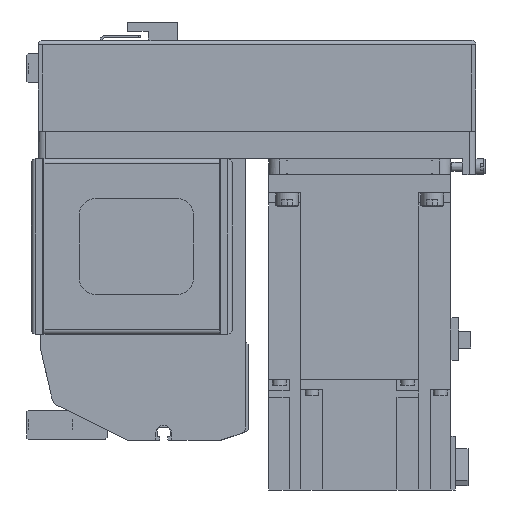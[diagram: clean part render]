
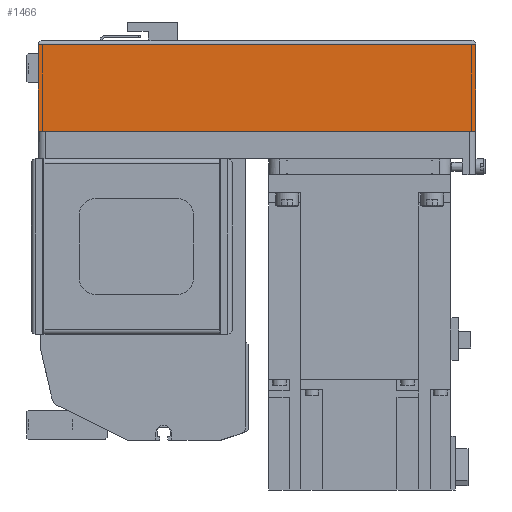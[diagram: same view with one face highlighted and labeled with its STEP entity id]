
A CAD part, left-side view. The second image highlights one B-rep face of the part: STEP entity #1466.
In plain terms, the highlighted planar face has unit normal (-1, 0, 0) as drawn and (0, -1, 0) by its records, which use the part's own axes.
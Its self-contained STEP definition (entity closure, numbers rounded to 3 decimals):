
#1466 = ADVANCED_FACE( '', ( #3770 ), #3771, .T. );
#3770 = FACE_OUTER_BOUND( '', #7140, .T. );
#3771 = PLANE( '', #7141 );
#7140 = EDGE_LOOP( '', ( #11321, #11322, #11323, #11324 ) );
#7141 = AXIS2_PLACEMENT_3D( '', #11325, #11326, #11327 );
#11321 = ORIENTED_EDGE( '', *, *, #19955, .F. );
#11322 = ORIENTED_EDGE( '', *, *, #19353, .F. );
#11323 = ORIENTED_EDGE( '', *, *, #19956, .T. );
#11324 = ORIENTED_EDGE( '', *, *, #19957, .T. );
#11325 = CARTESIAN_POINT( '', ( -192., -40., -12.1 ) );
#11326 = DIRECTION( '', ( 0., -1., 0. ) );
#11327 = DIRECTION( '', ( 0., 0., -1. ) );
#19353 = EDGE_CURVE( '', #23067, #23068, #23069, .T. );
#19955 = EDGE_CURVE( '', #23068, #24122, #24123, .T. );
#19956 = EDGE_CURVE( '', #23067, #24124, #24125, .T. );
#19957 = EDGE_CURVE( '', #24124, #24122, #24126, .T. );
#23067 = VERTEX_POINT( '', #28587 );
#23068 = VERTEX_POINT( '', #28588 );
#23069 = LINE( '', #28589, #28590 );
#24122 = VERTEX_POINT( '', #30477 );
#24123 = LINE( '', #30478, #30479 );
#24124 = VERTEX_POINT( '', #30480 );
#24125 = LINE( '', #30481, #30482 );
#24126 = LINE( '', #30483, #30484 );
#28587 = CARTESIAN_POINT( '', ( -192., -40., -12.1 ) );
#28588 = CARTESIAN_POINT( '', ( 0., -40., -12.1 ) );
#28589 = CARTESIAN_POINT( '', ( -192., -40., -12.1 ) );
#28590 = VECTOR( '', #36034, 1000. );
#30477 = CARTESIAN_POINT( '', ( 0., -40., -50. ) );
#30478 = CARTESIAN_POINT( '', ( 0., -40., -12.1 ) );
#30479 = VECTOR( '', #36809, 1000. );
#30480 = CARTESIAN_POINT( '', ( -192., -40., -50. ) );
#30481 = CARTESIAN_POINT( '', ( -192., -40., -12.1 ) );
#30482 = VECTOR( '', #36810, 1000. );
#30483 = CARTESIAN_POINT( '', ( -192., -40., -50. ) );
#30484 = VECTOR( '', #36811, 1000. );
#36034 = DIRECTION( '', ( 1., 0., 0. ) );
#36809 = DIRECTION( '', ( 0., 0., -1. ) );
#36810 = DIRECTION( '', ( 0., 0., -1. ) );
#36811 = DIRECTION( '', ( 1., 0., 0. ) );
